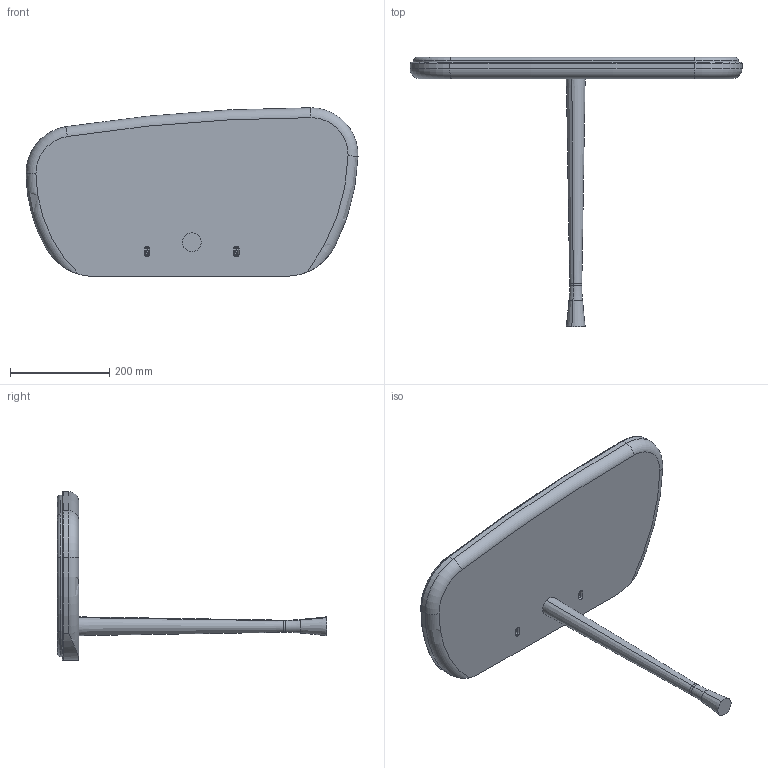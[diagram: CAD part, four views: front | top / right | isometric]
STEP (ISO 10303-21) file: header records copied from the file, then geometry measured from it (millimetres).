
FILE_DESCRIPTION (( 'STEP AP203' ), '1' );
FILE_NAME ('MESITA_MARMOL.STEP', '2017-05-05T07:36:45', ( 'Usuario' ), ( '' ), 'SwSTEP 2.0', 'SolidWorks 2016', '' );
FILE_SCHEMA (( 'CONFIG_CONTROL_DESIGN' ));
Length unit declared in the file: millimetre
Products named in the file (5): 3_ANCLAJE_MESITA; MESITA_MARMOL; 1_PALO_BASE_MESITA; PLACA_MARMOL_CONSOLA; 2_REPISA_NOGAL
Assembly tree (4 placements, depth 2):
  MESITA_MARMOL
    2_REPISA_NOGAL
    1_PALO_BASE_MESITA
    3_ANCLAJE_MESITA
    PLACA_MARMOL_CONSOLA
Bounding box: 670 x 543 x 340 mm (x, y, z)
Volume: 8747432.6 mm3; surface area: 950010 mm2
Topology: 5 solids, 5 shells, 158 faces, 384 edges, 240 vertices
Faces by surface type: cylinder 61, plane 47, torus 34, cone 12, bspline 4
Entity records: 18546 total; most frequent: CARTESIAN_POINT 14196, DIRECTION 870, ORIENTED_EDGE 768, EDGE_CURVE 384, AXIS2_PLACEMENT_3D 351, VERTEX_POINT 240, CIRCLE 190, EDGE_LOOP 180
